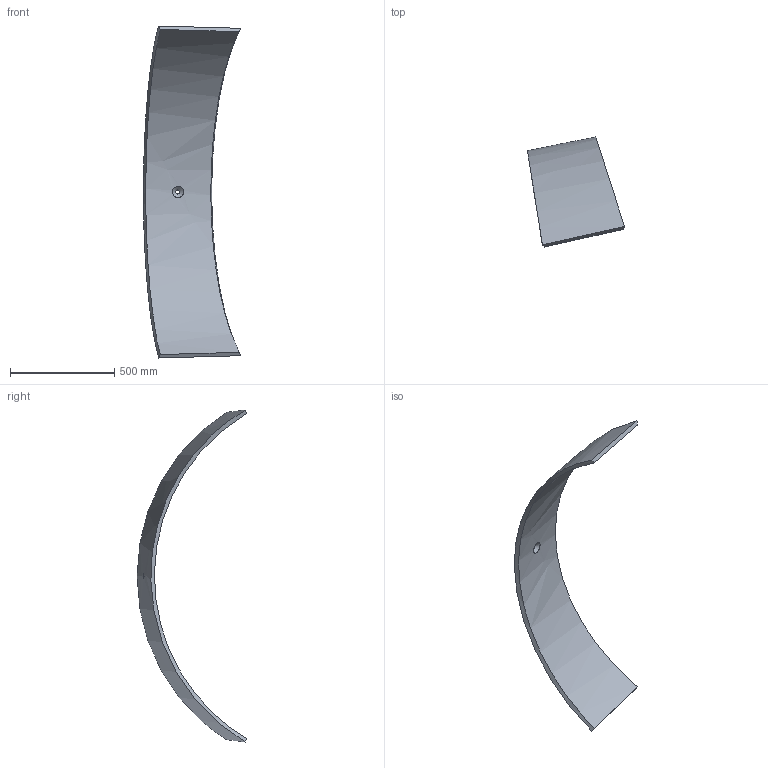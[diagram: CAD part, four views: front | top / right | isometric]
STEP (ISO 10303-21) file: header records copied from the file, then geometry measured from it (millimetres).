
FILE_DESCRIPTION (( 'STEP AP214' ), '1' );
FILE_NAME ('P12.1.STEP', '2025-01-09T19:43:25', ( '' ), ( '' ), 'SwSTEP 2.0', 'SolidWorks 2024', '' );
FILE_SCHEMA (( 'AUTOMOTIVE_DESIGN' ));
Length unit declared in the file: inch
Products named in the file (1): P12.1
Bounding box: 467.32 x 527.43 x 1595.91 mm (x, y, z)
Volume: 13045964.6 mm3; surface area: 1419943.8 mm2
Topology: 1 solids, 1 shells, 8 faces, 17 edges, 11 vertices
Faces by surface type: bspline 7, cylinder 1
Full cylindrical faces by diameter (mm): 19.447 x1
Entity records: 2477 total; most frequent: CARTESIAN_POINT 2329, ORIENTED_EDGE 30, EDGE_CURVE 15, B_SPLINE_CURVE_WITH_KNOTS 15, EDGE_LOOP 12, VERTEX_POINT 11, FACE_OUTER_BOUND 10, ADVANCED_FACE 8
